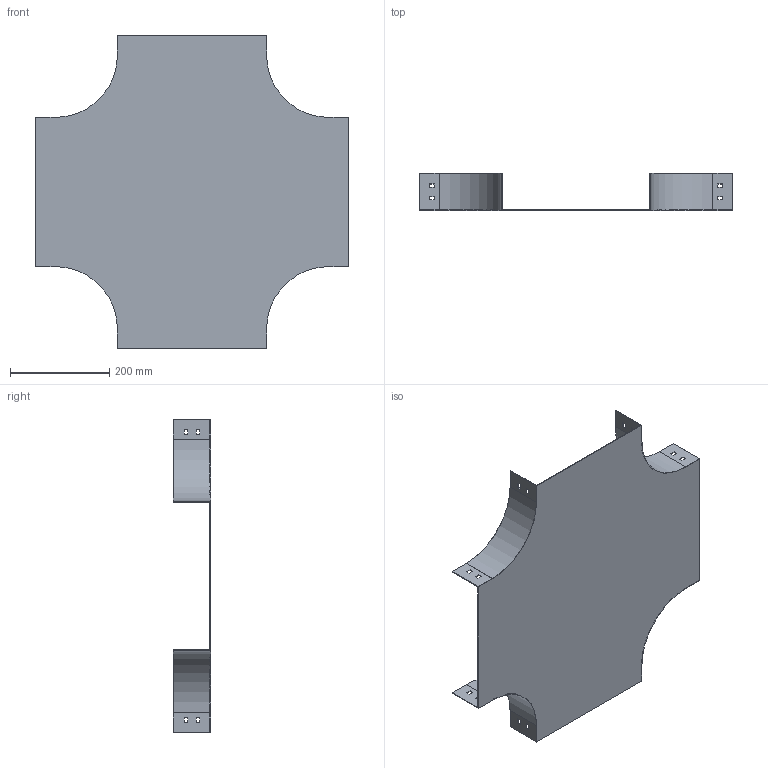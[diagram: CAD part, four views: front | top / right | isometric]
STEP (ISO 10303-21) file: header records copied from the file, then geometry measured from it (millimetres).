
FILE_DESCRIPTION (( 'STEP AP214' ), '1' );
FILE_NAME ('PC_307.step', '2025-07-16T09:22:23', ( '' ), ( '' ), 'SwSTEP 2.0', 'SolidWorks 2023', '' );
FILE_SCHEMA (( 'AUTOMOTIVE_DESIGN' ));
Length unit declared in the file: millimetre
Products named in the file (1): PC_307
Bounding box: 630 x 75 x 630 mm (x, y, z)
Volume: 572828.6 mm3; surface area: 768927.6 mm2
Topology: 1 solids, 1 shells, 98 faces, 288 edges, 192 vertices
Faces by surface type: plane 90, cylinder 8
Entity records: 3295 total; most frequent: CARTESIAN_POINT 579, ORIENTED_EDGE 576, DIRECTION 502, EDGE_CURVE 288, LINE 272, VECTOR 272, VERTEX_POINT 192, EDGE_LOOP 130
